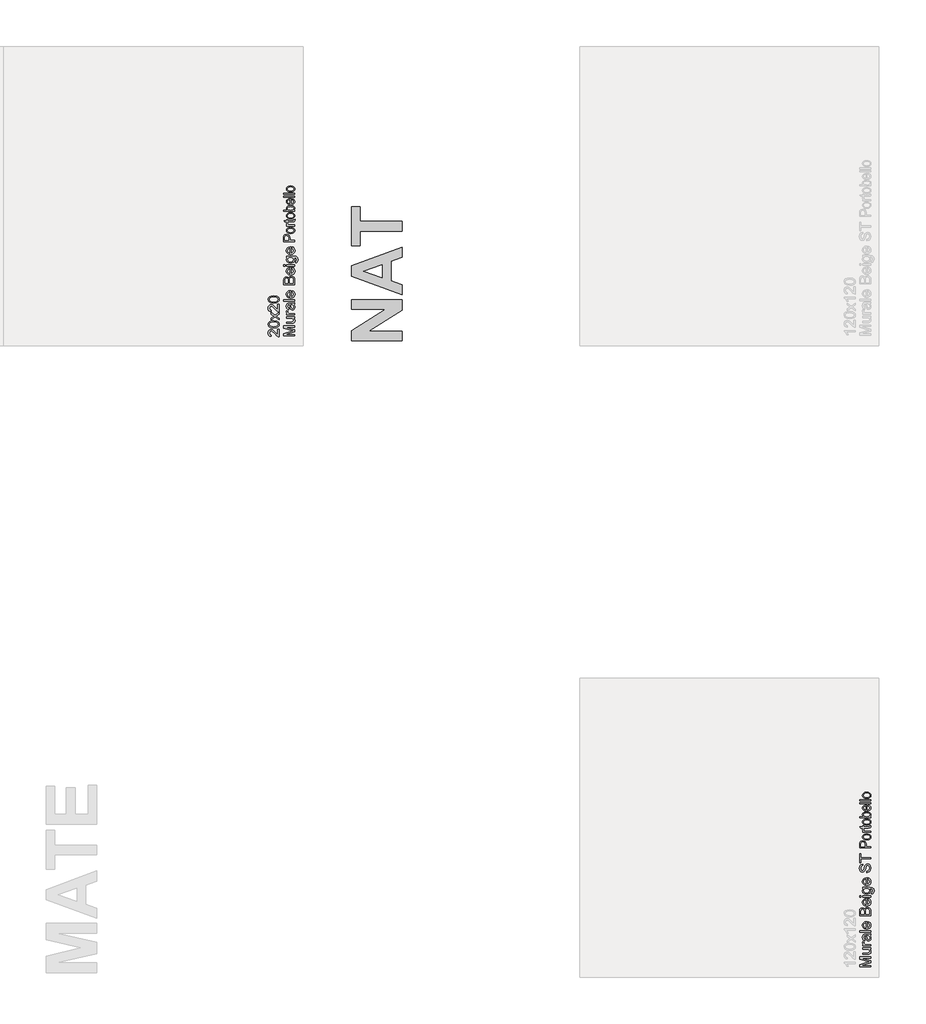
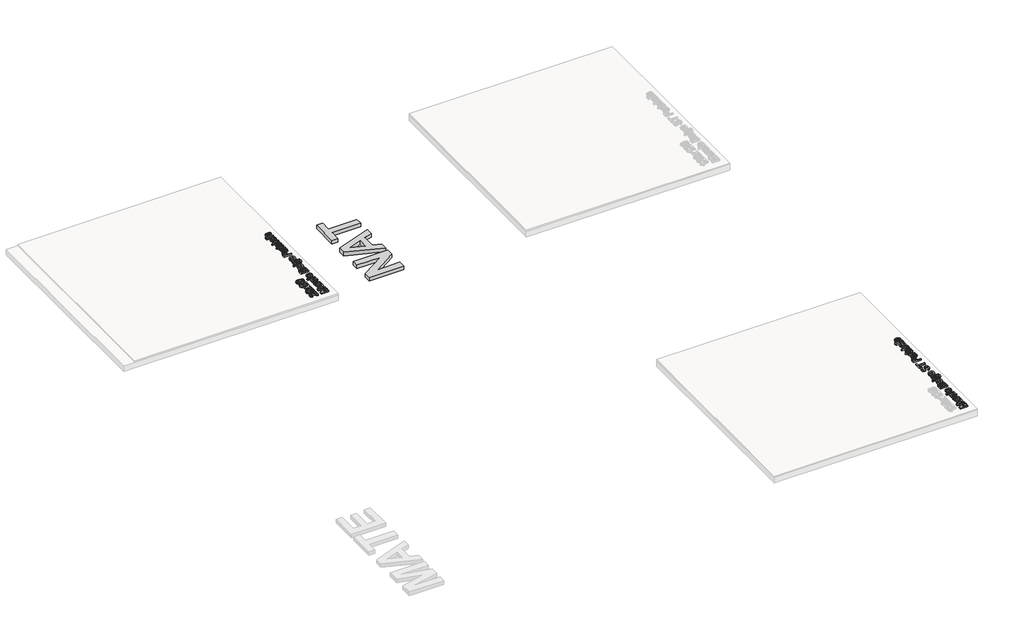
# One storey, part 13 of 21: 6 proxies.
"""IFC4 building model written with IfcOpenShell, lengths in millimetres."""

from ifc_helpers import new_model, si_unit, frame, origin, origin_with_axes, place, context, project, spatial, polyline, outline, extrude, element, save

model = new_model("IFC4")

# Units and contexts
model_context = context("Model", 3, world=origin())
ifc_project = project(units=[si_unit("LENGTHUNIT", "METRE", prefix="MILLI")], contexts=[model_context])

# Site, building, storey
site = spatial("IfcSite", under=ifc_project)
building = spatial("IfcBuilding", under=site)
storey = spatial("IfcBuildingStorey", under=building, Name="PORTOBELLO - SHOWROOM", Elevation=0.0)

# Proxies
placement = place(None, origin())
element("IfcBuildingElementProxy", 1, Name="10mm Arial", ObjectType="10mm Arial", at=placement, inside=storey, context=model_context, shape_type="SweptSolid", body=[
    extrude(outline(polyline([(17958.3969349, 22663.8882156), (17857.9406247, 22663.8882156), (17857.9406247, 22685.421575), (17928.7456461, 22706.0229667), (17943.5345023, 22710.192296), (17927.5193727, 22714.6804564), (17857.9406247, 22734.8894406), (17857.9406247, 22756.4963765), (17958.3969349, 22756.4963765), (17958.3969349, 22743.9393377), (17870.4976635, 22743.9393377), (17958.3969349, 22718.7026328), (17958.3969349, 22701.7064847), (17870.4976635, 22676.4452543), (17958.3969349, 22676.4452543), (17958.3969349, 22663.8882156)])), origin_with_axes(), (0.0, 0.0, 1.0), 20.0),
    extrude(outline(polyline([(17958.3969349, 22823.9904599), (17945.7172688, 22823.9904599), (17956.4042407, 22814.1557479), (17959.9665647, 22801.328929), (17957.4649672, 22789.5199169), (17951.1864478, 22781.3774621), (17941.940347, 22777.6373285), (17930.266225, 22776.9015645), (17884.6243321, 22776.9015645), (17884.6243321, 22789.4586032), (17924.3555876, 22789.4586032), (17937.157881, 22790.2188927), (17944.6749365, 22795.1852996), (17947.409526, 22804.541765), (17944.6136228, 22815.0264019), (17936.9984655, 22821.9548462), (17923.0066869, 22823.9904599), (17884.6243321, 22823.9904599), (17884.6243321, 22836.5474986), (17958.3969349, 22836.5474986), (17958.3969349, 22823.9904599)])), origin_with_axes(), (0.0, 0.0, 1.0), 20.0),
    extrude(outline(polyline([(17958.3969349, 22853.8134269), (17884.6243321, 22853.8134269), (17884.6243321, 22864.8008359), (17895.5381646, 22864.8008359), (17885.4827234, 22872.5999342), (17883.0547023, 22880.4480834), (17886.9297259, 22893.0541731), (17898.186915, 22888.8603183), (17895.611741, 22880.0311505), (17898.0888131, 22872.9310279), (17904.9559437, 22868.4060794), (17919.6221726, 22866.3704657), (17958.3969349, 22866.3704657), (17958.3969349, 22853.8134269)])), origin_with_axes(), (0.0, 0.0, 1.0), 20.0),
    extrude(outline(polyline([(17948.9791558, 22947.9912177), (17957.4894926, 22935.8143237), (17959.9665647, 22922.3621054), (17958.4766426, 22911.8682715), (17954.0068764, 22904.1274211), (17947.2194536, 22899.3541523), (17938.7765618, 22897.7630626), (17928.8437479, 22900.1665583), (17921.6332608, 22906.4818659), (17917.5129825, 22915.2742456), (17915.6245216, 22926.1390272), (17911.3080395, 22947.9176413), (17908.5121363, 22947.9912177), (17899.2415101, 22944.5331269), (17895.611741, 22930.651713), (17898.0274995, 22917.9475214), (17906.59915, 22911.8897312), (17905.0295201, 22899.3326925), (17892.7667869, 22904.7650833), (17885.5808253, 22915.7034413), (17883.0547023, 22932.2703938), (17885.2865197, 22947.4884456), (17890.8905888, 22956.0846216), (17899.4131883, 22959.9351198), (17910.4005972, 22960.5482565), (17926.0233193, 22960.5482565), (17947.8387216, 22961.1859186), (17958.3969349, 22963.6875162), (17958.3969349, 22951.1304774), (17948.9791558, 22947.9912177)]), holes=[polyline([(17923.8650783, 22947.9912177), (17927.7155765, 22927.7331825), (17929.7511902, 22916.9297146), (17933.0621281, 22912.036884), (17937.893645, 22910.3201014), (17944.6871992, 22914.060235), (17947.409526, 22925.0353812), (17944.4051563, 22937.7395728), (17937.1333556, 22945.9310785), (17927.4212709, 22947.9176413), (17923.8650783, 22947.9912177)])]), origin_with_axes(), (0.0, 0.0, 1.0), 20.0),
    extrude(outline(polyline([(17958.3969349, 22977.8141848), (17857.9406247, 22977.8141848), (17857.9406247, 22990.3712235), (17958.3969349, 22990.3712235), (17958.3969349, 22977.8141848)])), origin_with_axes(), (0.0, 0.0, 1.0), 20.0),
    extrude(outline(polyline([(17936.422117, 23060.8574138), (17937.9917469, 23073.1691979), (17947.2685045, 23068.7331542), (17954.2030801, 23061.6544915), (17958.5256936, 23052.0926253), (17959.9665647, 23040.2069712), (17957.4802956, 23025.4732972), (17950.0214881, 23014.1364004), (17938.0745203, 23006.9075192), (17922.1237702, 23004.4978922), (17905.6365254, 23006.9320447), (17893.3063472, 23014.2345023), (17885.6176135, 23025.4181149), (17883.0547023, 23039.4957326), (17885.6114821, 23053.1349576), (17893.2818217, 23064.0334617), (17905.5874745, 23071.1795695), (17922.0501938, 23073.5616054), (17925.4347081, 23073.488029), (17925.4347081, 23017.0549309), (17934.8340931, 23019.2285004), (17941.7441432, 23024.2776808), (17945.9931803, 23031.56481), (17947.409526, 23040.4522258), (17944.7853011, 23052.7640099), (17936.422117, 23060.8574138)]), holes=[polyline([(17912.8776693, 23017.0549309), (17912.8776693, 23061.0045666), (17901.497853, 23055.976846), (17897.083269, 23048.6559943), (17895.611741, 23039.4466817), (17900.3083678, 23023.9833752), (17905.7990066, 23019.1181358), (17912.8776693, 23017.0549309)])]), origin_with_axes(), (0.0, 0.0, 1.0), 20.0),
    extrude(outline(polyline([(17958.3969349, 23126.9290202), (17857.9406247, 23126.9290202), (17857.9406247, 23165.262324), (17860.8959434, 23184.0365685), (17869.9826287, 23195.1220793), (17882.8339731, 23199.1319931), (17894.5694087, 23195.7597414), (17903.4598903, 23185.5694102), (17912.8286184, 23197.942508), (17928.4513405, 23202.2712528), (17941.9526097, 23199.3159341), (17951.5665925, 23191.9950824), (17956.6678895, 23181.0689871), (17958.3969349, 23164.9680185), (17958.3969349, 23126.9290202)]), holes=[polyline([(17898.7510007, 23139.4860589), (17898.7510007, 23162.41737), (17897.6718802, 23175.8082746), (17893.0243043, 23183.8648903), (17884.8450613, 23186.5749543), (17876.6535555, 23184.0488313), (17871.8097759, 23176.8138187), (17870.4976635, 23160.6760618), (17870.4976635, 23139.4860589), (17898.7510007, 23139.4860589)]), polyline([(17945.8398961, 23139.4860589), (17945.8398961, 23165.2377986), (17945.3493868, 23174.5574758), (17942.6147973, 23182.4424132), (17937.0352537, 23187.6663376), (17928.5739678, 23189.714214), (17918.8128322, 23187.3107183), (17912.9880339, 23179.5238827), (17911.3080395, 23164.0115253), (17911.3080395, 23139.4860589), (17945.8398961, 23139.4860589)])]), origin_with_axes(), (0.0, 0.0, 1.0), 20.0),
    extrude(outline(polyline([(17936.422117, 23269.6181833), (17937.9917469, 23281.9299675), (17947.2685045, 23277.4939237), (17954.2030801, 23270.415261), (17958.5256936, 23260.8533948), (17959.9665647, 23248.9677407), (17957.4802956, 23234.2340668), (17950.0214881, 23222.89717), (17938.0745203, 23215.6682888), (17922.1237702, 23213.2586617), (17905.6365254, 23215.6928142), (17893.3063472, 23222.9952718), (17885.6176135, 23234.1788845), (17883.0547023, 23248.2565022), (17885.6114821, 23261.8957271), (17893.2818217, 23272.7942312), (17905.5874745, 23279.940339), (17922.0501938, 23282.3223749), (17925.4347081, 23282.2487985), (17925.4347081, 23225.8157005), (17934.8340931, 23227.9892699), (17941.7441432, 23233.0384503), (17945.9931803, 23240.3255795), (17947.409526, 23249.2129953), (17944.7853011, 23261.5247795), (17936.422117, 23269.6181833)]), holes=[polyline([(17912.8776693, 23225.8157005), (17912.8776693, 23269.7653361), (17901.497853, 23264.7376155), (17897.083269, 23257.4167638), (17895.611741, 23248.2074512), (17900.3083678, 23232.7441447), (17905.7990066, 23227.8789053), (17912.8776693, 23225.8157005)])]), origin_with_axes(), (0.0, 0.0, 1.0), 20.0),
    extrude(outline(polyline([(17870.4976635, 23294.8794137), (17857.9406247, 23294.8794137), (17857.9406247, 23307.4364525), (17870.4976635, 23307.4364525), (17870.4976635, 23294.8794137)])), origin_with_axes(), (0.0, 0.0, 1.0), 20.0),
    extrude(outline(polyline([(17958.3969349, 23294.8794137), (17884.6243321, 23294.8794137), (17884.6243321, 23307.4364525), (17958.3969349, 23307.4364525), (17958.3969349, 23294.8794137)])), origin_with_axes(), (0.0, 0.0, 1.0), 20.0),
    extrude(outline(polyline([(17964.6754543, 23323.1327509), (17966.2450841, 23335.6897897), (17972.86696, 23339.7610171), (17975.6628632, 23351.9501739), (17972.499078, 23364.8015182), (17963.6208592, 23370.9328848), (17948.9791558, 23371.7912761), (17956.0424901, 23362.9498455), (17958.3969349, 23352.1709031), (17955.656214, 23339.2245225), (17947.4340514, 23329.5706858), (17935.3797847, 23323.5650123), (17921.1427515, 23321.5631211), (17901.681794, 23325.1561019), (17887.9107446, 23335.5548996), (17883.0547023, 23351.5577664), (17885.8015545, 23362.7597732), (17894.0421112, 23371.7912761), (17884.6243321, 23371.7912761), (17884.6243321, 23384.3483149), (17948.3169682, 23384.3483149), (17972.7075445, 23380.9147496), (17984.0505727, 23370.0377053), (17988.219902, 23351.7049192), (17986.7514397, 23340.0216002), (17982.3460528, 23330.8214846), (17974.9914785, 23324.9200443), (17964.6754543, 23323.1327509)]), holes=[polyline([(17920.2843602, 23334.1201598), (17931.8021323, 23335.4598634), (17939.7207923, 23339.4789742), (17944.3101201, 23345.521436), (17945.8398961, 23352.9311925), (17944.3193172, 23360.2857667), (17939.7575805, 23366.3588853), (17931.9400881, 23370.4331784), (17920.6522422, 23371.7912761), (17909.7660008, 23370.3933246), (17901.9270486, 23366.1994698), (17897.1905679, 23360.0374464), (17895.611741, 23352.7349888), (17897.1660425, 23345.5643556), (17901.8289468, 23339.5525506), (17909.551403, 23335.4782575), (17920.2843602, 23334.1201598)])]), origin_with_axes(), (0.0, 0.0, 1.0), 20.0),
    extrude(outline(polyline([(17936.422117, 23454.8345052), (17937.9917469, 23467.1462893), (17947.2685045, 23462.7102456), (17954.2030801, 23455.6315828), (17958.5256936, 23446.0697167), (17959.9665647, 23434.1840625), (17957.4802956, 23419.4503886), (17950.0214881, 23408.1134918), (17938.0745203, 23400.8846106), (17922.1237702, 23398.4749835), (17905.6365254, 23400.9091361), (17893.3063472, 23408.2115937), (17885.6176135, 23419.3952063), (17883.0547023, 23433.472824), (17885.6114821, 23447.112049), (17893.2818217, 23458.0105531), (17905.5874745, 23465.1566608), (17922.0501938, 23467.5386968), (17925.4347081, 23467.4651204), (17925.4347081, 23411.0320223), (17934.8340931, 23413.2055917), (17941.7441432, 23418.2547721), (17945.9931803, 23425.5419013), (17947.409526, 23434.4293172), (17944.7853011, 23446.7411013), (17936.422117, 23454.8345052)]), holes=[polyline([(17912.8776693, 23411.0320223), (17912.8776693, 23454.981658), (17901.497853, 23449.9539374), (17897.083269, 23442.6330857), (17895.611741, 23433.4237731), (17900.3083678, 23417.9604665), (17905.7990066, 23413.0952271), (17912.8776693, 23411.0320223)])]), origin_with_axes(), (0.0, 0.0, 1.0), 20.0),
])
element("IfcBuildingElementProxy", 2, Name="10mm Arial", ObjectType="10mm Arial", at=placement, inside=storey, context=model_context, shape_type="SweptSolid", body=[
    extrude(outline(polyline([(17805.8398961, 22723.5341497), (17818.3969349, 22723.5341497), (17818.3969349, 22657.6096962), (17809.7394453, 22658.9585968), (17796.4098543, 22666.5982796), (17781.85399, 22682.3313662), (17760.9337672, 22703.9996158), (17746.7089968, 22709.4074811), (17735.1942903, 22704.2939214), (17730.4976635, 22690.9398049), (17735.0839257, 22677.0216028), (17747.7635918, 22671.7363648), (17746.193962, 22659.179326), (17734.0477248, 22662.2235495), (17725.1756373, 22668.8055716), (17719.7493779, 22678.5820356), (17717.9406247, 22691.2095851), (17719.951713, 22703.929105), (17725.9849777, 22713.687175), (17734.9980866, 22719.8951836), (17745.9487073, 22721.9645199), (17757.8558212, 22719.7327024), (17770.1676053, 22712.3137489), (17787.37222, 22694.3243193), (17799.4510121, 22679.8788196), (17805.8398961, 22674.2134369), (17805.8398961, 22723.5341497)])), origin_with_axes(), (0.0, 0.0, 1.0), 20.0),
    extrude(outline(polyline([(17768.9781202, 22736.0911885), (17740.0748581, 22739.7822712), (17723.4098037, 22750.7451546), (17717.9406247, 22769.0534152), (17721.1779863, 22783.7196441), (17730.5099262, 22793.8486617), (17745.3723588, 22799.7347736), (17768.9781202, 22802.015642), (17797.7587549, 22798.3613475), (17814.4605975, 22787.4352523), (17818.5900729, 22779.2038926), (17819.9665647, 22769.0534152), (17817.5753318, 22756.0058671), (17810.4016328, 22746.0975787), (17793.411616, 22738.592786), (17768.9781202, 22736.0911885)]), holes=[polyline([(17768.9535947, 22748.6482272), (17788.7057922, 22750.1197552), (17800.1377252, 22754.5343392), (17805.5915758, 22761.1071641), (17807.409526, 22769.0534152), (17805.5854444, 22776.9996663), (17800.1131997, 22783.5724913), (17788.6751354, 22787.9870753), (17768.9535947, 22789.4586032), (17749.6459213, 22788.0361262), (17738.1250835, 22783.7686951), (17732.4045185, 22777.2081328), (17730.4976635, 22768.9062624), (17732.1776579, 22761.0458505), (17737.2176413, 22754.7305429), (17749.455849, 22750.1688062), (17768.9535947, 22748.6482272)])]), origin_with_axes(), (0.0, 0.0, 1.0), 20.0),
    extrude(outline(polyline([(17818.3969349, 22808.2941614), (17781.2899043, 22835.1250216), (17744.6243321, 22809.8637912), (17744.6243321, 22824.9224276), (17762.3071933, 22837.1115844), (17770.6213264, 22842.826018), (17763.8032468, 22847.7801622), (17744.6243321, 22861.6615762), (17744.6243321, 22876.7692634), (17781.3144298, 22850.2327088), (17818.3969349, 22875.7882448), (17818.3969349, 22860.705083), (17796.0787605, 22845.3030901), (17791.9830076, 22842.5071869), (17818.3969349, 22823.4018487), (17818.3969349, 22808.2941614)])), origin_with_axes(), (0.0, 0.0, 1.0), 20.0),
    extrude(outline(polyline([(17805.8398961, 22947.9912177), (17818.3969349, 22947.9912177), (17818.3969349, 22882.0667642), (17809.7394453, 22883.4156648), (17796.4098543, 22891.0553476), (17781.85399, 22906.7884342), (17760.9337672, 22928.4566838), (17746.7089968, 22933.8645491), (17735.1942903, 22928.7509893), (17730.4976635, 22915.3968729), (17735.0839257, 22901.4786708), (17747.7635918, 22896.1934328), (17746.193962, 22883.636394), (17734.0477248, 22886.6806175), (17725.1756373, 22893.2626395), (17719.7493779, 22903.0391036), (17717.9406247, 22915.6666531), (17719.951713, 22928.386173), (17725.9849777, 22938.144243), (17734.9980866, 22944.3522516), (17745.9487073, 22946.4215879), (17757.8558212, 22944.1897704), (17770.1676053, 22936.7708168), (17787.37222, 22918.7813873), (17799.4510121, 22904.3358876), (17805.8398961, 22898.6705049), (17805.8398961, 22947.9912177)])), origin_with_axes(), (0.0, 0.0, 1.0), 20.0),
    extrude(outline(polyline([(17768.9781202, 22960.5482565), (17740.0748581, 22964.2393392), (17723.4098037, 22975.2022226), (17717.9406247, 22993.5104832), (17721.1779863, 23008.1767121), (17730.5099262, 23018.3057297), (17745.3723588, 23024.1918416), (17768.9781202, 23026.47271), (17797.7587549, 23022.8184155), (17814.4605975, 23011.8923203), (17818.5900729, 23003.6609606), (17819.9665647, 22993.5104832), (17817.5753318, 22980.4629351), (17810.4016328, 22970.5546467), (17793.411616, 22963.049854), (17768.9781202, 22960.5482565)]), holes=[polyline([(17768.9535947, 22973.1052952), (17788.7057922, 22974.5768232), (17800.1377252, 22978.9914072), (17805.5915758, 22985.5642321), (17807.409526, 22993.5104832), (17805.5854444, 23001.4567343), (17800.1131997, 23008.0295593), (17788.6751354, 23012.4441433), (17768.9535947, 23013.9156712), (17749.6459213, 23012.4931942), (17738.1250835, 23008.225763), (17732.4045185, 23001.6652008), (17730.4976635, 22993.3633304), (17732.1776579, 22985.5029185), (17737.2176413, 22979.1876109), (17749.455849, 22974.6258741), (17768.9535947, 22973.1052952)])]), origin_with_axes(), (0.0, 0.0, 1.0), 20.0),
])
element("IfcBuildingElementProxy", 3, Name="10mm Arial", ObjectType="10mm Arial", at=placement, inside=storey, context=model_context, shape_type="SweptSolid", body=[
    extrude(outline(polyline([(23159.4374935, 16969.8696803), (23058.9811833, 16969.8696803), (23058.9811833, 16991.4030397), (23129.7862046, 17012.0044314), (23144.5750608, 17016.1737607), (23128.5599313, 17020.6619211), (23058.9811833, 17040.8709053), (23058.9811833, 17062.4778412), (23159.4374935, 17062.4778412), (23159.4374935, 17049.9208024), (23071.5382221, 17049.9208024), (23159.4374935, 17024.6840975), (23159.4374935, 17007.6879494), (23071.5382221, 16982.426719), (23159.4374935, 16982.426719), (23159.4374935, 16969.8696803)])), frame((0.0, 0.0, 17.0), z_axis=(0.0, 0.0, 1.0), x_axis=(1.0, 0.0, 0.0)), (0.0, 0.0, 1.0), 20.0),
    extrude(outline(polyline([(23159.4374935, 17129.9719246), (23146.7578274, 17129.9719246), (23157.4447993, 17120.1372126), (23161.0071233, 17107.3103937), (23158.5055257, 17095.5013816), (23152.2270063, 17087.3589268), (23142.9809055, 17083.6187932), (23131.3067836, 17082.8830292), (23085.6648907, 17082.8830292), (23085.6648907, 17095.4400679), (23125.3961462, 17095.4400679), (23138.1984396, 17096.2003574), (23145.715495, 17101.1667643), (23148.4500845, 17110.5232297), (23145.6541814, 17121.0078666), (23138.0390241, 17127.9363109), (23124.0472455, 17129.9719246), (23085.6648907, 17129.9719246), (23085.6648907, 17142.5289633), (23159.4374935, 17142.5289633), (23159.4374935, 17129.9719246)])), frame((0.0, 0.0, 17.0), z_axis=(0.0, 0.0, 1.0), x_axis=(1.0, 0.0, 0.0)), (0.0, 0.0, 1.0), 20.0),
    extrude(outline(polyline([(23159.4374935, 17159.7948916), (23085.6648907, 17159.7948916), (23085.6648907, 17170.7823006), (23096.5787232, 17170.7823006), (23086.523282, 17178.5813989), (23084.0952608, 17186.4295481), (23087.9702845, 17199.0356378), (23099.2274736, 17194.841783), (23096.6522996, 17186.0126152), (23099.1293717, 17178.9124927), (23105.9965023, 17174.3875441), (23120.6627312, 17172.3519304), (23159.4374935, 17172.3519304), (23159.4374935, 17159.7948916)])), frame((0.0, 0.0, 17.0), z_axis=(0.0, 0.0, 1.0), x_axis=(1.0, 0.0, 0.0)), (0.0, 0.0, 1.0), 20.0),
    extrude(outline(polyline([(23150.0197144, 17253.9726824), (23158.5300512, 17241.7957884), (23161.0071233, 17228.3435701), (23159.5172012, 17217.8497362), (23155.047435, 17210.1088858), (23148.2600122, 17205.335617), (23139.8171204, 17203.7445273), (23129.8843065, 17206.148023), (23122.6738194, 17212.4633306), (23118.5535411, 17221.2557103), (23116.6650801, 17232.1204919), (23112.3485981, 17253.899106), (23109.5526949, 17253.9726824), (23100.2820686, 17250.5145916), (23096.6522996, 17236.6331777), (23099.068058, 17223.9289861), (23107.6397085, 17217.8711959), (23106.0700787, 17205.3141572), (23093.8073455, 17210.746548), (23086.6213839, 17221.684906), (23084.0952608, 17238.2518585), (23086.3270783, 17253.4699103), (23091.9311473, 17262.0660863), (23100.4537469, 17265.9165845), (23111.4411558, 17266.5297212), (23127.0638779, 17266.5297212), (23148.8792802, 17267.1673833), (23159.4374935, 17269.6689809), (23159.4374935, 17257.1119421), (23150.0197144, 17253.9726824)]), holes=[polyline([(23124.9056368, 17253.9726824), (23128.7561351, 17233.7146472), (23130.7917488, 17222.9111793), (23134.1026867, 17218.0183487), (23138.9342036, 17216.3015661), (23145.7277578, 17220.0416997), (23148.4500845, 17231.0168459), (23145.4457149, 17243.7210375), (23138.1739141, 17251.9125432), (23128.4618295, 17253.899106), (23124.9056368, 17253.9726824)])]), frame((0.0, 0.0, 17.0), z_axis=(0.0, 0.0, 1.0), x_axis=(1.0, 0.0, 0.0)), (0.0, 0.0, 1.0), 20.0),
    extrude(outline(polyline([(23159.4374935, 17283.7956495), (23058.9811833, 17283.7956495), (23058.9811833, 17296.3526882), (23159.4374935, 17296.3526882), (23159.4374935, 17283.7956495)])), frame((0.0, 0.0, 17.0), z_axis=(0.0, 0.0, 1.0), x_axis=(1.0, 0.0, 0.0)), (0.0, 0.0, 1.0), 20.0),
    extrude(outline(polyline([(23137.4626756, 17366.8388785), (23139.0323055, 17379.1506626), (23148.3090631, 17374.7146189), (23155.2436387, 17367.6359562), (23159.5662521, 17358.07409), (23161.0071233, 17346.1884359), (23158.5208541, 17331.454762), (23151.0620467, 17320.1178651), (23139.1150789, 17312.8889839), (23123.1643287, 17310.4793569), (23106.677084, 17312.9135094), (23094.3469058, 17320.215967), (23086.6581721, 17331.3995797), (23084.0952608, 17345.4771973), (23086.6520407, 17359.1164223), (23094.3223803, 17370.0149264), (23106.628033, 17377.1610342), (23123.0907523, 17379.5430701), (23126.4752667, 17379.4694937), (23126.4752667, 17323.0363956), (23135.8746517, 17325.2099651), (23142.7847018, 17330.2591455), (23147.0337388, 17337.5462747), (23148.4500845, 17346.4336905), (23145.8258596, 17358.7454746), (23137.4626756, 17366.8388785)]), holes=[polyline([(23113.9182279, 17323.0363956), (23113.9182279, 17366.9860313), (23102.5384115, 17361.9583107), (23098.1238276, 17354.637459), (23096.6522996, 17345.4281464), (23101.3489264, 17329.9648399), (23106.8395652, 17325.0996005), (23113.9182279, 17323.0363956)])]), frame((0.0, 0.0, 17.0), z_axis=(0.0, 0.0, 1.0), x_axis=(1.0, 0.0, 0.0)), (0.0, 0.0, 1.0), 20.0),
    extrude(outline(polyline([(23159.4374935, 17432.9104849), (23058.9811833, 17432.9104849), (23058.9811833, 17471.2437888), (23061.936502, 17490.0180332), (23071.0231873, 17501.103544), (23083.8745316, 17505.1134578), (23095.6099673, 17501.7412062), (23104.5004488, 17491.5508749), (23113.869177, 17503.9239727), (23129.491899, 17508.2527175), (23142.9931683, 17505.2973988), (23152.6071511, 17497.9765471), (23157.7084481, 17487.0504518), (23159.4374935, 17470.9494832), (23159.4374935, 17432.9104849)]), holes=[polyline([(23099.7915593, 17445.4675236), (23099.7915593, 17468.3988347), (23098.7124388, 17481.7897393), (23094.0648629, 17489.846355), (23085.8856199, 17492.556419), (23077.6941141, 17490.030296), (23072.8503345, 17482.7952834), (23071.5382221, 17466.6575265), (23071.5382221, 17445.4675236), (23099.7915593, 17445.4675236)]), polyline([(23146.8804547, 17445.4675236), (23146.8804547, 17471.2192633), (23146.3899454, 17480.5389405), (23143.6553559, 17488.4238779), (23138.0758123, 17493.6478023), (23129.6145264, 17495.6956787), (23119.8533908, 17493.292183), (23114.0285925, 17485.5053474), (23112.3485981, 17469.99299), (23112.3485981, 17445.4675236), (23146.8804547, 17445.4675236)])]), frame((0.0, 0.0, 17.0), z_axis=(0.0, 0.0, 1.0), x_axis=(1.0, 0.0, 0.0)), (0.0, 0.0, 1.0), 20.0),
    extrude(outline(polyline([(23137.4626756, 17575.5996481), (23139.0323055, 17587.9114322), (23148.3090631, 17583.4753884), (23155.2436387, 17576.3967257), (23159.5662521, 17566.8348595), (23161.0071233, 17554.9492054), (23158.5208541, 17540.2155315), (23151.0620467, 17528.8786347), (23139.1150789, 17521.6497535), (23123.1643287, 17519.2401264), (23106.677084, 17521.6742789), (23094.3469058, 17528.9767365), (23086.6581721, 17540.1603492), (23084.0952608, 17554.2379669), (23086.6520407, 17567.8771918), (23094.3223803, 17578.7756959), (23106.628033, 17585.9218037), (23123.0907523, 17588.3038396), (23126.4752667, 17588.2302632), (23126.4752667, 17531.7971652), (23135.8746517, 17533.9707346), (23142.7847018, 17539.019915), (23147.0337388, 17546.3070442), (23148.4500845, 17555.1944601), (23145.8258596, 17567.5062442), (23137.4626756, 17575.5996481)]), holes=[polyline([(23113.9182279, 17531.7971652), (23113.9182279, 17575.7468008), (23102.5384115, 17570.7190802), (23098.1238276, 17563.3982285), (23096.6522996, 17554.1889159), (23101.3489264, 17538.7256094), (23106.8395652, 17533.86037), (23113.9182279, 17531.7971652)])]), frame((0.0, 0.0, 17.0), z_axis=(0.0, 0.0, 1.0), x_axis=(1.0, 0.0, 0.0)), (0.0, 0.0, 1.0), 20.0),
    extrude(outline(polyline([(23071.5382221, 17600.8608784), (23058.9811833, 17600.8608784), (23058.9811833, 17613.4179172), (23071.5382221, 17613.4179172), (23071.5382221, 17600.8608784)])), frame((0.0, 0.0, 17.0), z_axis=(0.0, 0.0, 1.0), x_axis=(1.0, 0.0, 0.0)), (0.0, 0.0, 1.0), 20.0),
    extrude(outline(polyline([(23159.4374935, 17600.8608784), (23085.6648907, 17600.8608784), (23085.6648907, 17613.4179172), (23159.4374935, 17613.4179172), (23159.4374935, 17600.8608784)])), frame((0.0, 0.0, 17.0), z_axis=(0.0, 0.0, 1.0), x_axis=(1.0, 0.0, 0.0)), (0.0, 0.0, 1.0), 20.0),
    extrude(outline(polyline([(23165.7160128, 17629.1142156), (23167.2856427, 17641.6712544), (23173.9075186, 17645.7424818), (23176.7034218, 17657.9316386), (23173.5396366, 17670.7829829), (23164.6614178, 17676.9143495), (23150.0197144, 17677.7727408), (23157.0830487, 17668.9313102), (23159.4374935, 17658.1523678), (23156.6967726, 17645.2059872), (23148.47461, 17635.5521505), (23136.4203433, 17629.546477), (23122.1833101, 17627.5445858), (23102.7223525, 17631.1375666), (23088.9513032, 17641.5363643), (23084.0952608, 17657.5392311), (23086.8421131, 17668.7412379), (23095.0826698, 17677.7727408), (23085.6648907, 17677.7727408), (23085.6648907, 17690.3297796), (23149.3575268, 17690.3297796), (23173.7481031, 17686.8962143), (23185.0911312, 17676.01917), (23189.2604605, 17657.6863839), (23187.7919982, 17646.0030649), (23183.3866113, 17636.8029493), (23176.0320371, 17630.901509), (23165.7160128, 17629.1142156)]), holes=[polyline([(23121.3249188, 17640.1016245), (23132.8426909, 17641.4413281), (23140.7613508, 17645.4604389), (23145.3506787, 17651.5029007), (23146.8804547, 17658.9126572), (23145.3598758, 17666.2672314), (23140.798139, 17672.34035), (23132.9806466, 17676.4146431), (23121.6928007, 17677.7727408), (23110.8065594, 17676.3747893), (23102.9676072, 17672.1809345), (23098.2311265, 17666.0189111), (23096.6522996, 17658.7164535), (23098.206601, 17651.5458203), (23102.8695053, 17645.5340153), (23110.5919615, 17641.4597222), (23121.3249188, 17640.1016245)])]), frame((0.0, 0.0, 17.0), z_axis=(0.0, 0.0, 1.0), x_axis=(1.0, 0.0, 0.0)), (0.0, 0.0, 1.0), 20.0),
    extrude(outline(polyline([(23137.4626756, 17760.8159699), (23139.0323055, 17773.127754), (23148.3090631, 17768.6917103), (23155.2436387, 17761.6130475), (23159.5662521, 17752.0511814), (23161.0071233, 17740.1655272), (23158.5208541, 17725.4318533), (23151.0620467, 17714.0949565), (23139.1150789, 17706.8660753), (23123.1643287, 17704.4564482), (23106.677084, 17706.8906008), (23094.3469058, 17714.1930584), (23086.6581721, 17725.376671), (23084.0952608, 17739.4542887), (23086.6520407, 17753.0935137), (23094.3223803, 17763.9920178), (23106.628033, 17771.1381255), (23123.0907523, 17773.5201615), (23126.4752667, 17773.4465851), (23126.4752667, 17717.013487), (23135.8746517, 17719.1870565), (23142.7847018, 17724.2362368), (23147.0337388, 17731.523366), (23148.4500845, 17740.4107819), (23145.8258596, 17752.722566), (23137.4626756, 17760.8159699)]), holes=[polyline([(23113.9182279, 17717.013487), (23113.9182279, 17760.9631227), (23102.5384115, 17755.9354021), (23098.1238276, 17748.6145504), (23096.6522996, 17739.4052378), (23101.3489264, 17723.9419312), (23106.8395652, 17719.0766919), (23113.9182279, 17717.013487)])]), frame((0.0, 0.0, 17.0), z_axis=(0.0, 0.0, 1.0), x_axis=(1.0, 0.0, 0.0)), (0.0, 0.0, 1.0), 20.0),
    extrude(outline(polyline([(23124.9056368, 17822.1786867), (23124.9056368, 17834.7357255), (23137.4749383, 17838.7824274), (23145.4211894, 17848.6661903), (23148.4500845, 17863.7248267), (23146.1569534, 17876.8459512), (23139.8539086, 17885.3194998), (23131.4294109, 17888.1031402), (23123.5935244, 17886.0184756), (23117.8913535, 17877.4836133), (23113.0966248, 17859.1998781), (23106.9039445, 17839.5181914), (23097.5597419, 17828.8373508), (23085.0762795, 17825.3179464), (23070.8637717, 17829.6712167), (23060.832856, 17842.387671), (23057.4115535, 17861.0024999), (23060.9922715, 17880.8681276), (23071.5136966, 17894.1118795), (23087.2345205, 17899.0905491), (23087.2345205, 17886.5335104), (23079.7419906, 17884.2281165), (23074.3341252, 17879.4211251), (23069.9685922, 17861.4930092), (23074.2850743, 17843.5158424), (23084.7083975, 17837.8749851), (23093.414938, 17841.8726362), (23100.4292214, 17862.375926), (23106.7322663, 17884.5959985), (23116.9103348, 17896.7483671), (23131.1105798, 17900.660179), (23146.132428, 17896.1597559), (23157.0953114, 17883.2103097), (23161.0071233, 17864.215336), (23156.7887431, 17841.786797), (23144.0845515, 17827.5988147), (23124.9056368, 17822.1786867)])), frame((0.0, 0.0, 17.0), z_axis=(0.0, 0.0, 1.0), x_axis=(1.0, 0.0, 0.0)), (0.0, 0.0, 1.0), 20.0),
    extrude(outline(polyline([(23159.4374935, 17944.6098147), (23071.5382221, 17944.6098147), (23071.5382221, 17911.6475879), (23058.9811833, 17911.6475879), (23058.9811833, 17990.1290802), (23071.5382221, 17990.1290802), (23071.5382221, 17957.1668534), (23159.4374935, 17957.1668534), (23159.4374935, 17944.6098147)])), frame((0.0, 0.0, 17.0), z_axis=(0.0, 0.0, 1.0), x_axis=(1.0, 0.0, 0.0)), (0.0, 0.0, 1.0), 20.0),
])
element("IfcBuildingElementProxy", 4, Name="10mm Arial Narrow", ObjectType="10mm Arial Narrow", at=placement, inside=storey, context=model_context, shape_type="SweptSolid", body=[
    extrude(outline(polyline([(17958.3969349, 23516.2021152), (17857.6783311, 23516.2021152), (17857.6783311, 23547.4989999), (17859.5566519, 23563.7947014), (17869.037095, 23575.2676875), (17886.0562039, 23579.5573659), (17898.1320294, 23577.7710575), (17907.7584232, 23572.4121323), (17914.0596816, 23562.6683435), (17916.160101, 23547.7274443), (17916.160101, 23525.9490768), (17958.3969349, 23525.9490768), (17958.3969349, 23516.2021152)]), holes=[polyline([(17904.7886458, 23525.9490768), (17904.7886458, 23548.9204318), (17900.2578316, 23564.7846272), (17886.5892408, 23569.8104043), (17876.4234644, 23567.3355898), (17870.6235146, 23561.357961), (17869.0497864, 23548.6919874), (17869.0497864, 23525.9490768), (17904.7886458, 23525.9490768)])]), origin_with_axes(), (0.0, 0.0, 1.0), 20.0),
    extrude(outline(polyline([(17921.8458287, 23587.679834), (17905.2550531, 23589.6343028), (17893.3029683, 23595.4977095), (17886.0784137, 23604.3562762), (17883.6702289, 23615.2962253), (17886.0784137, 23626.1092609), (17893.3029683, 23634.9932103), (17905.0646828, 23640.9327651), (17921.0843473, 23642.9126167), (17938.2462339, 23640.9676663), (17950.388689, 23635.1328153), (17957.6132436, 23626.2837671), (17960.0214285, 23615.2962253), (17957.6068979, 23604.4355972), (17950.3633063, 23595.5611663), (17938.4048758, 23589.650167), (17921.8458287, 23587.679834)]), holes=[polyline([(17921.820446, 23597.4267956), (17934.3721974, 23598.7308325), (17943.2434554, 23602.6429431), (17948.516714, 23608.4841398), (17950.2744668, 23615.5754352), (17948.5008498, 23622.2955083), (17943.1799987, 23627.9875816), (17934.2928764, 23631.8711367), (17921.820446, 23633.165655), (17909.3067686, 23631.8616182), (17900.4482019, 23627.9495076), (17895.1749434, 23622.1083108), (17893.4171905, 23615.0170155), (17895.1844619, 23608.2493497), (17900.486276, 23602.5667949), (17909.3543612, 23598.7117955), (17921.820446, 23597.4267956)])]), origin_with_axes(), (0.0, 0.0, 1.0), 20.0),
    extrude(outline(polyline([(17950.2744668, 23714.3903355), (17960.0214285, 23716.0148291), (17960.0214285, 23708.6538424), (17957.901972, 23700.3790781), (17952.1020221, 23696.0640169), (17937.456197, 23694.8964122), (17895.0416841, 23694.8964122), (17895.0416841, 23686.7739441), (17891.7926969, 23686.7739441), (17896.6661777, 23685.1494505), (17895.0416841, 23677.5854021), (17897.3642023, 23671.5062425), (17903.8494854, 23667.6353788), (17919.256792, 23665.6555272), (17958.3969349, 23665.6555272), (17958.3969349, 23655.9085656), (17885.2947225, 23655.9085656), (17885.2947225, 23665.6555272), (17894.9909187, 23665.6555272), (17885.9039076, 23671.8996745), (17883.6702289, 23678.2961181), (17885.2947225, 23686.7739441), (17885.2947225, 23694.8964122), (17869.0497864, 23694.8964122), (17860.9273183, 23704.6433738), (17885.2947225, 23704.6433738), (17885.2947225, 23714.3903355), (17895.0416841, 23714.3903355), (17895.0416841, 23704.6433738), (17939.6898757, 23704.6433738), (17947.6854301, 23705.506386), (17950.2744668, 23710.1260397), (17950.2744668, 23714.3903355)])), origin_with_axes(), (0.0, 0.0, 1.0), 20.0),
    extrude(outline(polyline([(17921.8458287, 23720.8883099), (17905.2550531, 23722.8427788), (17893.3029683, 23728.7061854), (17886.0784137, 23737.5647521), (17883.6702289, 23748.5047013), (17886.0784137, 23759.3177368), (17893.3029683, 23768.2016863), (17905.0646828, 23774.141241), (17921.0843473, 23776.1210926), (17938.2462339, 23774.1761423), (17950.388689, 23768.3412912), (17957.6132436, 23759.492243), (17960.0214285, 23748.5047013), (17957.6068979, 23737.6440731), (17950.3633063, 23728.7696422), (17938.4048758, 23722.858643), (17921.8458287, 23720.8883099)]), holes=[polyline([(17921.820446, 23730.6352716), (17934.3721974, 23731.9393084), (17943.2434554, 23735.851419), (17948.516714, 23741.6926158), (17950.2744668, 23748.7839111), (17948.5008498, 23755.5039843), (17943.1799987, 23761.1960576), (17934.2928764, 23765.0796126), (17921.820446, 23766.374131), (17909.3067686, 23765.0700941), (17900.4482019, 23761.1579835), (17895.1749434, 23755.3167868), (17893.4171905, 23748.2254914), (17895.1844619, 23741.4578257), (17900.486276, 23735.7752709), (17909.3543612, 23731.9202714), (17921.820446, 23730.6352716)])]), origin_with_axes(), (0.0, 0.0, 1.0), 20.0),
    extrude(outline(polyline([(17958.3969349, 23798.8640031), (17958.3969349, 23789.1170415), (17857.6783311, 23789.1170415), (17857.6783311, 23798.8640031), (17893.0872153, 23798.8640031), (17886.0054384, 23806.2630639), (17883.6702289, 23815.4642972), (17887.8710678, 23828.3460239), (17900.6004982, 23837.6234053), (17921.287409, 23841.100837), (17937.7417525, 23839.168578), (17949.9444916, 23833.371801), (17957.5021943, 23824.9986786), (17960.0214285, 23815.3373836), (17957.4070091, 23805.9965454), (17949.639899, 23798.8640031), (17958.3969349, 23798.8640031)]), holes=[polyline([(17921.287409, 23798.8640031), (17938.5349622, 23800.9453856), (17947.2666154, 23806.8341749), (17950.2744668, 23815.2866182), (17948.4849856, 23821.2293458), (17943.1165419, 23826.4677031), (17921.6935324, 23831.3538753), (17900.2578316, 23826.6453821), (17895.1273508, 23821.4006791), (17893.4171905, 23815.0835565), (17895.2066718, 23809.1059277), (17900.5751155, 23803.8136321), (17921.287409, 23798.8640031)])]), origin_with_axes(), (0.0, 0.0, 1.0), 20.0),
    extrude(outline(polyline([(17935.6540244, 23893.0846325), (17937.278518, 23902.8315941), (17947.1650845, 23899.1320637), (17954.2849354, 23893.3130769), (17958.5873052, 23885.6094236), (17960.0214285, 23876.255894), (17957.6068979, 23864.66234), (17950.3633063, 23855.5182177), (17938.5571721, 23849.578663), (17922.4550138, 23847.5988114), (17905.7880901, 23849.5881815), (17893.6075609, 23855.5562918), (17886.1545619, 23864.5703276), (17883.6702289, 23875.6974743), (17886.0688952, 23886.3804235), (17893.2648942, 23895.1279408), (17905.0043988, 23900.9627919), (17921.0335819, 23902.9077422), (17924.2825691, 23902.8315941), (17924.2825691, 23857.3457731), (17943.725727, 23863.3487846), (17948.6372819, 23869.2788208), (17950.2744668, 23876.3828075), (17946.6193562, 23886.5612753), (17935.6540244, 23893.0846325)]), holes=[polyline([(17914.5356074, 23858.0057236), (17914.5356074, 23893.0846325), (17900.2705229, 23888.8203367), (17895.1305236, 23882.9950042), (17893.4171905, 23875.7736224), (17899.1283009, 23863.5645377), (17914.5356074, 23858.0057236)])]), origin_with_axes(), (0.0, 0.0, 1.0), 20.0),
    extrude(outline(polyline([(17958.3969349, 23915.827543), (17857.6783311, 23915.827543), (17857.6783311, 23925.5745046), (17958.3969349, 23925.5745046), (17958.3969349, 23915.827543)])), origin_with_axes(), (0.0, 0.0, 1.0), 20.0),
    extrude(outline(polyline([(17958.3969349, 23941.8194407), (17857.6783311, 23941.8194407), (17857.6783311, 23951.5664024), (17958.3969349, 23951.5664024), (17958.3969349, 23941.8194407)])), origin_with_axes(), (0.0, 0.0, 1.0), 20.0),
    extrude(outline(polyline([(17921.8458287, 23962.9378576), (17905.2550531, 23964.8923265), (17893.3029683, 23970.7557331), (17886.0784137, 23979.6142998), (17883.6702289, 23990.554249), (17886.0784137, 24001.3672846), (17893.3029683, 24010.251234), (17905.0646828, 24016.1907888), (17921.0843473, 24018.1706403), (17938.2462339, 24016.22569), (17950.388689, 24010.3908389), (17957.6132436, 24001.5417907), (17960.0214285, 23990.554249), (17957.6068979, 23979.6936208), (17950.3633063, 23970.8191899), (17938.4048758, 23964.9081907), (17921.8458287, 23962.9378576)]), holes=[polyline([(17921.820446, 23972.6848193), (17934.3721974, 23973.9888562), (17943.2434554, 23977.9009667), (17948.516714, 23983.7421635), (17950.2744668, 23990.8334588), (17948.5008498, 23997.553532), (17943.1799987, 24003.2456053), (17934.2928764, 24007.1291603), (17921.820446, 24008.4236787), (17909.3067686, 24007.1196418), (17900.4482019, 24003.2075312), (17895.1749434, 23997.3663345), (17893.4171905, 23990.2750391), (17895.1844619, 23983.5073734), (17900.486276, 23977.8248186), (17909.3543612, 23973.9698191), (17921.820446, 23972.6848193)])]), origin_with_axes(), (0.0, 0.0, 1.0), 20.0),
])
element("IfcBuildingElementProxy", 5, Name="10mm Arial Narrow", ObjectType="10mm Arial Narrow", at=placement, inside=storey, context=model_context, shape_type="SweptSolid", body=[
    extrude(outline(polyline([(23159.4374935, 18044.588476), (23058.7188897, 18044.588476), (23058.7188897, 18075.8853607), (23060.5972104, 18092.1810622), (23070.0776536, 18103.6540483), (23087.0967624, 18107.9437267), (23099.172588, 18106.1574183), (23108.7989817, 18100.7984931), (23115.1002401, 18091.0547043), (23117.2006596, 18076.1138051), (23117.2006596, 18054.3354376), (23159.4374935, 18054.3354376), (23159.4374935, 18044.588476)]), holes=[polyline([(23105.8292044, 18054.3354376), (23105.8292044, 18077.3067926), (23101.2983902, 18093.170988), (23087.6297994, 18098.1967651), (23077.464023, 18095.7219506), (23071.6640731, 18089.7443218), (23070.090345, 18077.0783482), (23070.090345, 18054.3354376), (23105.8292044, 18054.3354376)])]), frame((0.0, 0.0, 17.0), z_axis=(0.0, 0.0, 1.0), x_axis=(1.0, 0.0, 0.0)), (0.0, 0.0, 1.0), 20.0),
    extrude(outline(polyline([(23122.8863873, 18116.0661948), (23106.2956117, 18118.0206637), (23094.3435269, 18123.8840703), (23087.1189723, 18132.742637), (23084.7107874, 18143.6825861), (23087.1189723, 18154.4956217), (23094.3435269, 18163.3795711), (23106.1052414, 18169.3191259), (23122.1249059, 18171.2989775), (23139.2867925, 18169.3540271), (23151.4292476, 18163.5191761), (23158.6538022, 18154.6701279), (23161.0619871, 18143.6825861), (23158.6474565, 18132.821958), (23151.4038649, 18123.9475271), (23139.4454344, 18118.0365278), (23122.8863873, 18116.0661948)]), holes=[polyline([(23122.8610045, 18125.8131564), (23135.4127559, 18127.1171933), (23144.284014, 18131.0293039), (23149.5572726, 18136.8705006), (23151.3150254, 18143.961796), (23149.5414084, 18150.6818691), (23144.2205572, 18156.3739424), (23135.333435, 18160.2574975), (23122.8610045, 18161.5520158), (23110.3473272, 18160.247979), (23101.4887605, 18156.3358684), (23096.2155019, 18150.4946716), (23094.4577491, 18143.4033763), (23096.2250205, 18136.6357105), (23101.5268346, 18130.9531557), (23110.3949198, 18127.0981563), (23122.8610045, 18125.8131564)])]), frame((0.0, 0.0, 17.0), z_axis=(0.0, 0.0, 1.0), x_axis=(1.0, 0.0, 0.0)), (0.0, 0.0, 1.0), 20.0),
    extrude(outline(polyline([(23151.3150254, 18242.7766963), (23161.0619871, 18244.4011899), (23161.0619871, 18237.0402032), (23158.9425306, 18228.7654389), (23153.1425807, 18224.4503777), (23138.4967555, 18223.282773), (23096.0822427, 18223.282773), (23096.0822427, 18215.1603049), (23092.8332555, 18215.1603049), (23097.7067363, 18213.5358113), (23096.0822427, 18205.9717629), (23098.4047609, 18199.8926033), (23104.890044, 18196.0217396), (23120.2973506, 18194.041888), (23159.4374935, 18194.041888), (23159.4374935, 18184.2949264), (23086.335281, 18184.2949264), (23086.335281, 18194.041888), (23096.0314773, 18194.041888), (23086.9444662, 18200.2860353), (23084.7107874, 18206.6824789), (23086.335281, 18215.1603049), (23086.335281, 18223.282773), (23070.090345, 18223.282773), (23061.9678769, 18233.0297346), (23086.335281, 18233.0297346), (23086.335281, 18242.7766963), (23096.0822427, 18242.7766963), (23096.0822427, 18233.0297346), (23140.7304342, 18233.0297346), (23148.7259887, 18233.8927468), (23151.3150254, 18238.5124006), (23151.3150254, 18242.7766963)])), frame((0.0, 0.0, 17.0), z_axis=(0.0, 0.0, 1.0), x_axis=(1.0, 0.0, 0.0)), (0.0, 0.0, 1.0), 20.0),
    extrude(outline(polyline([(23122.8863873, 18249.2746707), (23106.2956117, 18251.2291396), (23094.3435269, 18257.0925462), (23087.1189723, 18265.9511129), (23084.7107874, 18276.8910621), (23087.1189723, 18287.7040976), (23094.3435269, 18296.5880471), (23106.1052414, 18302.5276018), (23122.1249059, 18304.5074534), (23139.2867925, 18302.5625031), (23151.4292476, 18296.727652), (23158.6538022, 18287.8786038), (23161.0619871, 18276.8910621), (23158.6474565, 18266.0304339), (23151.4038649, 18257.156003), (23139.4454344, 18251.2450038), (23122.8863873, 18249.2746707)]), holes=[polyline([(23122.8610045, 18259.0216324), (23135.4127559, 18260.3256692), (23144.284014, 18264.2377798), (23149.5572726, 18270.0789766), (23151.3150254, 18277.1702719), (23149.5414084, 18283.8903451), (23144.2205572, 18289.5824184), (23135.333435, 18293.4659734), (23122.8610045, 18294.7604918), (23110.3473272, 18293.4564549), (23101.4887605, 18289.5443443), (23096.2155019, 18283.7031476), (23094.4577491, 18276.6118522), (23096.2250205, 18269.8441865), (23101.5268346, 18264.1616317), (23110.3949198, 18260.3066322), (23122.8610045, 18259.0216324)])]), frame((0.0, 0.0, 17.0), z_axis=(0.0, 0.0, 1.0), x_axis=(1.0, 0.0, 0.0)), (0.0, 0.0, 1.0), 20.0),
    extrude(outline(polyline([(23159.4374935, 18327.2503639), (23159.4374935, 18317.5034023), (23058.7188897, 18317.5034023), (23058.7188897, 18327.2503639), (23094.1277738, 18327.2503639), (23087.045997, 18334.6494247), (23084.7107874, 18343.850658), (23088.9116264, 18356.7323847), (23101.6410568, 18366.0097661), (23122.3279676, 18369.4871978), (23138.782311, 18367.5549388), (23150.9850501, 18361.7581618), (23158.5427528, 18353.3850394), (23161.0619871, 18343.7237444), (23158.4475677, 18334.3829062), (23150.6804576, 18327.2503639), (23159.4374935, 18327.2503639)]), holes=[polyline([(23122.3279676, 18327.2503639), (23139.5755208, 18329.3317464), (23148.307174, 18335.2205357), (23151.3150254, 18343.672979), (23149.5255442, 18349.6157066), (23144.1571004, 18354.8540639), (23122.734091, 18359.7402361), (23101.2983902, 18355.0317429), (23096.1679094, 18349.7870399), (23094.4577491, 18343.4699173), (23096.2472303, 18337.4922885), (23101.6156741, 18332.1999929), (23122.3279676, 18327.2503639)])]), frame((0.0, 0.0, 17.0), z_axis=(0.0, 0.0, 1.0), x_axis=(1.0, 0.0, 0.0)), (0.0, 0.0, 1.0), 20.0),
    extrude(outline(polyline([(23136.6945829, 18421.4709933), (23138.3190765, 18431.2179549), (23148.2056431, 18427.5184245), (23155.325494, 18421.6994377), (23159.6278638, 18413.9957844), (23161.0619871, 18404.6422548), (23158.6474565, 18393.0487008), (23151.4038649, 18383.9045785), (23139.5977307, 18377.9650238), (23123.4955724, 18375.9851722), (23106.8286487, 18377.9745423), (23094.6481194, 18383.9426526), (23087.1951204, 18392.9566884), (23084.7107874, 18404.0838351), (23087.1094538, 18414.7667843), (23094.3054528, 18423.5143016), (23106.0449574, 18429.3491527), (23122.0741404, 18431.294103), (23125.3231277, 18431.2179549), (23125.3231277, 18385.7321339), (23144.7662855, 18391.7351454), (23149.6778404, 18397.6651816), (23151.3150254, 18404.7691683), (23147.6599148, 18414.9476361), (23136.6945829, 18421.4709933)]), holes=[polyline([(23115.576166, 18386.3920844), (23115.576166, 18421.4709933), (23101.3110815, 18417.2066975), (23096.1710822, 18411.381365), (23094.4577491, 18404.1599832), (23100.1688594, 18391.9508985), (23115.576166, 18386.3920844)])]), frame((0.0, 0.0, 17.0), z_axis=(0.0, 0.0, 1.0), x_axis=(1.0, 0.0, 0.0)), (0.0, 0.0, 1.0), 20.0),
    extrude(outline(polyline([(23159.4374935, 18444.2139038), (23058.7188897, 18444.2139038), (23058.7188897, 18453.9608654), (23159.4374935, 18453.9608654), (23159.4374935, 18444.2139038)])), frame((0.0, 0.0, 17.0), z_axis=(0.0, 0.0, 1.0), x_axis=(1.0, 0.0, 0.0)), (0.0, 0.0, 1.0), 20.0),
    extrude(outline(polyline([(23159.4374935, 18470.2058015), (23058.7188897, 18470.2058015), (23058.7188897, 18479.9527632), (23159.4374935, 18479.9527632), (23159.4374935, 18470.2058015)])), frame((0.0, 0.0, 17.0), z_axis=(0.0, 0.0, 1.0), x_axis=(1.0, 0.0, 0.0)), (0.0, 0.0, 1.0), 20.0),
    extrude(outline(polyline([(23122.8863873, 18491.3242184), (23106.2956117, 18493.2786873), (23094.3435269, 18499.1420939), (23087.1189723, 18508.0006606), (23084.7107874, 18518.9406098), (23087.1189723, 18529.7536454), (23094.3435269, 18538.6375948), (23106.1052414, 18544.5771496), (23122.1249059, 18546.5570011), (23139.2867925, 18544.6120508), (23151.4292476, 18538.7771997), (23158.6538022, 18529.9281515), (23161.0619871, 18518.9406098), (23158.6474565, 18508.0799816), (23151.4038649, 18499.2055507), (23139.4454344, 18493.2945515), (23122.8863873, 18491.3242184)]), holes=[polyline([(23122.8610045, 18501.0711801), (23135.4127559, 18502.375217), (23144.284014, 18506.2873275), (23149.5572726, 18512.1285243), (23151.3150254, 18519.2198196), (23149.5414084, 18525.9398928), (23144.2205572, 18531.6319661), (23135.333435, 18535.5155211), (23122.8610045, 18536.8100395), (23110.3473272, 18535.5060026), (23101.4887605, 18531.593892), (23096.2155019, 18525.7526953), (23094.4577491, 18518.6614), (23096.2250205, 18511.8937342), (23101.5268346, 18506.2111794), (23110.3949198, 18502.3561799), (23122.8610045, 18501.0711801)])]), frame((0.0, 0.0, 17.0), z_axis=(0.0, 0.0, 1.0), x_axis=(1.0, 0.0, 0.0)), (0.0, 0.0, 1.0), 20.0),
])
element("IfcBuildingElementProxy", 6, Name="450mm Arial", ObjectType="450mm Arial", at=placement, inside=storey, context=model_context, shape_type="SweptSolid", body=[
    extrude(outline(polyline([(18929.6229349, 22619.1171638), (18470.5062049, 22619.1171638), (18470.5062049, 22710.7810943), (18779.5445991, 22903.3322824), (18470.5062049, 22903.3322824), (18470.5062049, 22990.7830881), (18929.6229349, 22990.7830881), (18929.6229349, 22896.2724517), (18625.1392703, 22706.5679695), (18929.6229349, 22706.5679695), (18929.6229349, 22619.1171638)])), origin_with_axes(), (0.0, 0.0, 1.0), 50.0),
    extrude(outline(polyline([(18929.6229349, 23464.4749524), (18929.6229349, 23372.5832854), (18827.5969949, 23336.6009227), (18827.5969949, 23163.2934666), (18929.6229349, 23127.7665767), (18929.6229349, 23034.508491), (18470.5062049, 23201.8947988), (18470.5062049, 23295.2667528), (18929.6229349, 23464.4749524)]), holes=[polyline([(18747.4337564, 23308.5893365), (18579.8197121, 23249.4917217), (18747.4337564, 23191.1911845), (18747.4337564, 23308.5893365)])]), origin_with_axes(), (0.0, 0.0, 1.0), 50.0),
    extrude(outline(polyline([(18929.6229349, 23610.2262952), (18550.6694435, 23610.2262952), (18550.6694435, 23479.0500867), (18470.5062049, 23479.0500867), (18470.5062049, 23828.8533095), (18550.6694435, 23828.8533095), (18550.6694435, 23697.6771009), (18929.6229349, 23697.6771009), (18929.6229349, 23610.2262952)])), origin_with_axes(), (0.0, 0.0, 1.0), 50.0),
])

save(model, "model.ifc")
